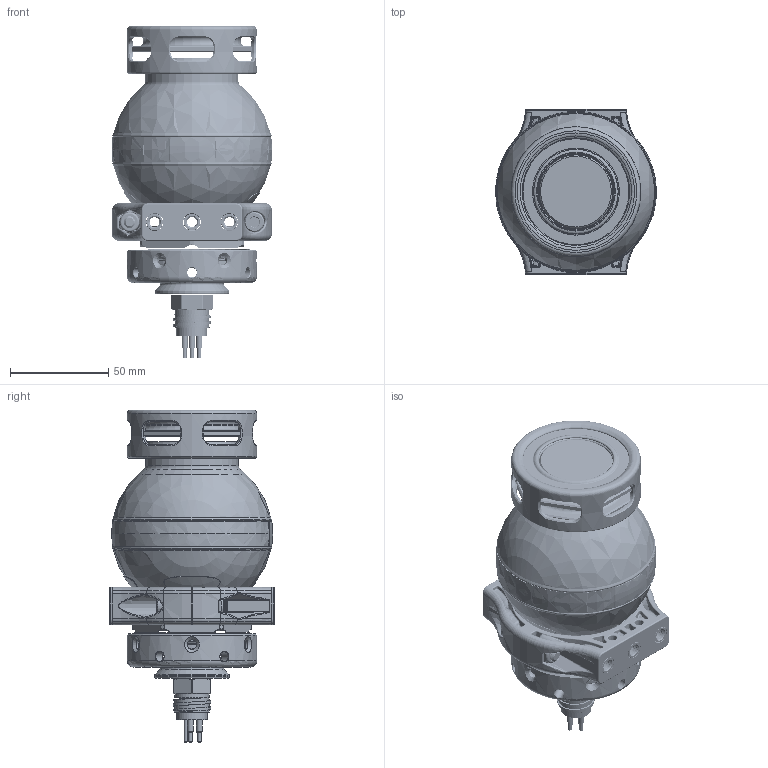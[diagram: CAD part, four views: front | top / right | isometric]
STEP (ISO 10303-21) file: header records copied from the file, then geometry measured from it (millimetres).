
FILE_DESCRIPTION (( 'STEP AP214' ), '1' );
FILE_NAME ('SLS-050-MCBH3-0A_20160804a.STEP', '2016-08-04T15:05:36', ( '' ), ( '' ), 'SwSTEP 2.0', 'SolidWorks 2015', '' );
FILE_SCHEMA (( 'AUTOMOTIVE_DESIGN' ));
Length unit declared in the file: millimetre
Products named in the file (1): SLS-050-MCBH3-0A_20160804a
Bounding box: 81.96 x 84 x 169.07 mm (x, y, z)
Surface area: 76481 mm2 (no closed solid volume)
Topology: 0 solids, 36 shells, 1622 faces, 4954 edges, 3274 vertices
Faces by surface type: bspline 384, torus 375, cone 325, cylinder 321, plane 206, sphere 11
Full cylindrical faces by diameter (mm): 1.524 x1, 1.943 x3, 3.048 x3, 4.851 x12, 5.035 x78, 6.538 x2, 8.5 x6, 9 x6, 10 x2, 15.748 x1, 17.475 x1, 38.1 x2, 39.116 x1, 47.38 x1, 49.53 x1, 54 x1, 58.737 x1, 62.127 x1, 66 x1, 66.167 x1
Entity records: 111823 total; most frequent: CARTESIAN_POINT 58617, ORIENTED_EDGE 7410, DIRECTION 6772, EDGE_CURVE 4506, VERTEX_POINT 3066, AXIS2_PLACEMENT_3D 3005, CIRCLE 1844, EDGE_LOOP 1791
